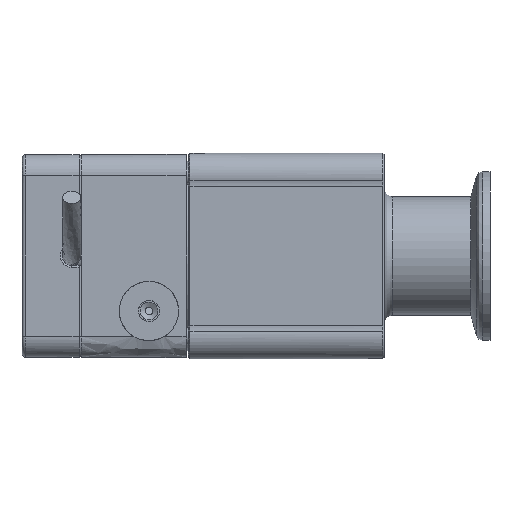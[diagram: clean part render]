
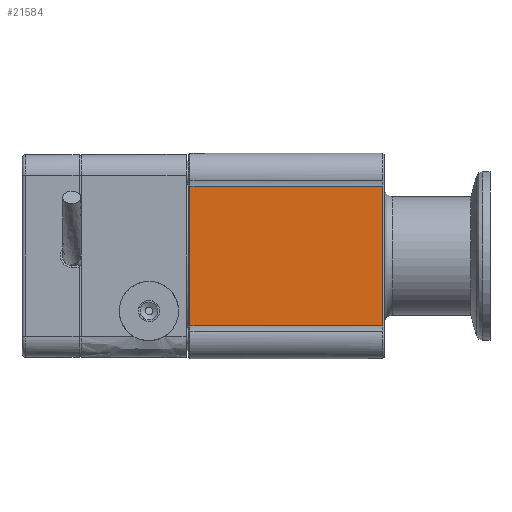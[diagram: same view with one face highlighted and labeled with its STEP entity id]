
A CAD part, left-side view. The second image highlights one B-rep face of the part: STEP entity #21584.
In plain terms, the highlighted free-form (B-spline) face has degree [1, 1] with [2, 2] control points.
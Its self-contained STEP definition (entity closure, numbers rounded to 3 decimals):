
#17604=CARTESIAN_POINT('V164',(-24.0,67.9,
   -16.532));
#17605=VERTEX_POINT('V164',#17604);
#17648=CARTESIAN_POINT('V162',(-24.,
   67.9,16.532));
#17649=VERTEX_POINT('V162',#17648);
#17655=CARTESIAN_POINT('E304',(-24.0,67.9,
   16.532));
#17656=CARTESIAN_POINT('E304',(-24.0,67.9,
   -16.532));
#17657=B_SPLINE_CURVE_WITH_KNOTS('E304',1,(#17655,#17656),
   .POLYLINE_FORM.,.F.,.U.,(2,2),(2.0,60.45),
   .UNSPECIFIED.);
#17658=EDGE_CURVE('E304',#17649,#17605,#17657,.T.);
#18266=CARTESIAN_POINT('V132',(-24.,
   22.4,16.532));
#18267=VERTEX_POINT('V132',#18266);
#18310=CARTESIAN_POINT('V130',(-24.0,22.4,
   -16.532));
#18311=VERTEX_POINT('V130',#18310);
#18317=CARTESIAN_POINT('E236',(-24.,
   22.4,-16.532));
#18318=CARTESIAN_POINT('E236',(-24.,
   22.4,16.532));
#18319=B_SPLINE_CURVE_WITH_KNOTS('E236',1,(#18317,#18318),
   .POLYLINE_FORM.,.F.,.U.,(2,2),(2.0,60.45),
   .UNSPECIFIED.);
#18320=EDGE_CURVE('E236',#18311,#18267,#18319,.T.);
#18999=CARTESIAN_POINT('E167',(-24.,
   22.4,16.532));
#19000=CARTESIAN_POINT('E167',(-24.,
   67.9,16.532));
#19001=B_SPLINE_CURVE_WITH_KNOTS('E167',1,(#18999,#19000),
   .POLYLINE_FORM.,.F.,.U.,(2,2),(2.331,
   39.942),.UNSPECIFIED.);
#19002=EDGE_CURVE('E167',#18267,#17649,#19001,.T.);
#19022=CARTESIAN_POINT('E157',(-24.,
   67.9,-16.532));
#19023=CARTESIAN_POINT('E157',(-24.0,22.4,
   -16.532));
#19024=B_SPLINE_CURVE_WITH_KNOTS('E157',1,(#19022,#19023),
   .POLYLINE_FORM.,.F.,.U.,(2,2),(2.331,
   39.942),.UNSPECIFIED.);
#19025=EDGE_CURVE('E157',#17605,#18311,#19024,.T.);
#21573=CARTESIAN_POINT('F34',(-24.0,21.,
   -17.242));
#21574=CARTESIAN_POINT('F34',(-24.0,21.,
   17.242));
#21575=CARTESIAN_POINT('F34',(-24.0,71.8,
   -17.242));
#21576=CARTESIAN_POINT('F34',(-24.0,71.8,
   17.242));
#21577=B_SPLINE_SURFACE_WITH_KNOTS('F34',1,1,((#21573,#21575),(
   #21574,#21576)),.PLANE_SURF.,.F.,.F.,.U.,(2,2),(2,2),(0.0,1.0),
   (0.696,2.169),.UNSPECIFIED.);
#21578=ORIENTED_EDGE('E304',*,*,#17658,.F.);
#21579=ORIENTED_EDGE('F66',*,*,#19002,.F.);
#21580=ORIENTED_EDGE('E236',*,*,#18320,.F.);
#21581=ORIENTED_EDGE('E157',*,*,#19025,.F.);
#21582=EDGE_LOOP('F34',(#21578,#21579,#21580,#21581));
#21583=FACE_OUTER_BOUND('F34',#21582,.F.);
#21584=ADVANCED_FACE('F34',(#21583),#21577,.T.);
